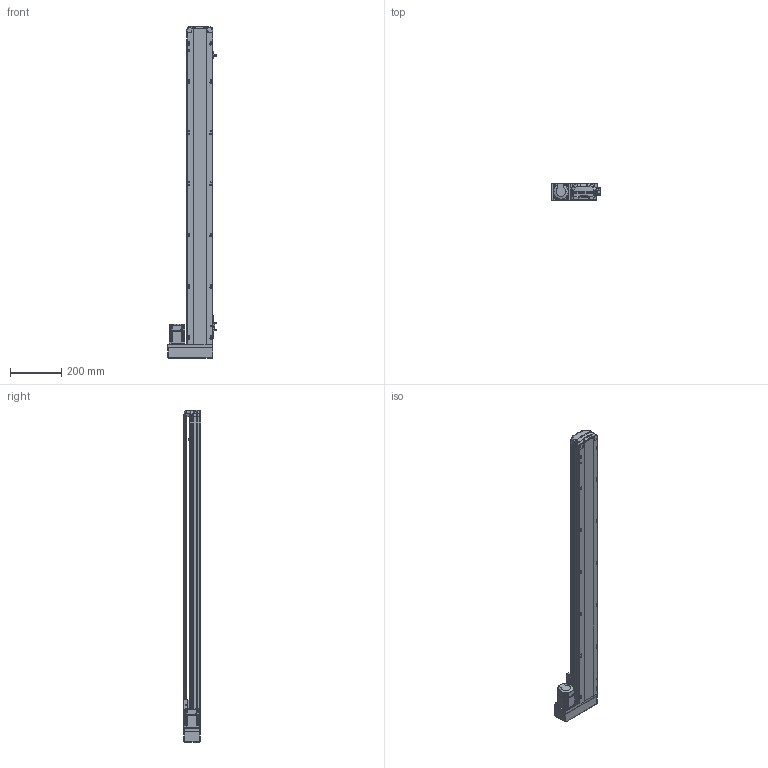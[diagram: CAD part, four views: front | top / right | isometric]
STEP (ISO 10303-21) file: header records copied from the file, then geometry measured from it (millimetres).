
FILE_DESCRIPTION (( 'STEP AP214' ), '1' );
FILE_NAME ('RTH10-XX-1050-L-M20-C4.STEP', '2025-10-25T03:50:47', ( 'Microsoft' ), ( 'Microsoft' ), 'SwSTEP 2.0', 'SolidWorks 2018', '' );
FILE_SCHEMA (( 'AUTOMOTIVE_DESIGN' ));
Length unit declared in the file: millimetre
Products named in the file (10): N_RTH12-M-011P-臏倰第菁釱^RTH10-XX-XX-L-M20-C4; N_RTH13-L-012覜茼え俋离^RTH10-XX-XX-L-M20-C4; N_RTH12-L-018-裔赽^RTH10-XX-XX-L-M20-C4; N_RTH12-M-007P-奻裔^RTH10-XX-XX-L-M20-C4; RTH10-XX-1050-L-M20-C4; N_200W-1^RTH10-XX-XX-L-M20-C4; N_RTH12-L-008萇儂啣^RTH10-XX-XX-L-M20-C4; N_RTH12-GY-001P^RTH10-XX-XX-L-M20-C4; N_RTH12-GY-004-賑釱^RTH10-XX-XX-L-M20-C4; N_OMRON EE-SX672 传感器^RTH10-XX-XX-L-M20-C4
Assembly tree (11 placements, depth 2):
  RTH10-XX-1050-L-M20-C4
    N_RTH12-M-011P-臏倰第菁釱^RTH10-XX-XX-L-M20-C4
    N_RTH13-L-012覜茼え俋离^RTH10-XX-XX-L-M20-C4
    N_OMRON EE-SX672 传感器^RTH10-XX-XX-L-M20-C4  x3
    N_200W-1^RTH10-XX-XX-L-M20-C4
    N_RTH12-M-007P-奻裔^RTH10-XX-XX-L-M20-C4
    N_RTH12-L-008萇儂啣^RTH10-XX-XX-L-M20-C4
    N_RTH12-L-018-裔赽^RTH10-XX-XX-L-M20-C4
    N_RTH12-GY-004-賑釱^RTH10-XX-XX-L-M20-C4
    N_RTH12-GY-001P^RTH10-XX-XX-L-M20-C4
Bounding box: 190 x 70 x 1297.31 mm (x, y, z)
Volume: 5529836.6 mm3; surface area: 828742.9 mm2
Topology: 10 solids, 12 shells, 2016 faces, 5641 edges, 3705 vertices
Faces by surface type: plane 991, cylinder 518, bspline 472, cone 29, sphere 4, torus 2
Entity records: 61135 total; most frequent: CARTESIAN_POINT 23797, ORIENTED_EDGE 8354, DIRECTION 6515, EDGE_CURVE 4183, VERTEX_POINT 2749, VECTOR 2221, LINE 2221, AXIS2_PLACEMENT_3D 2147
